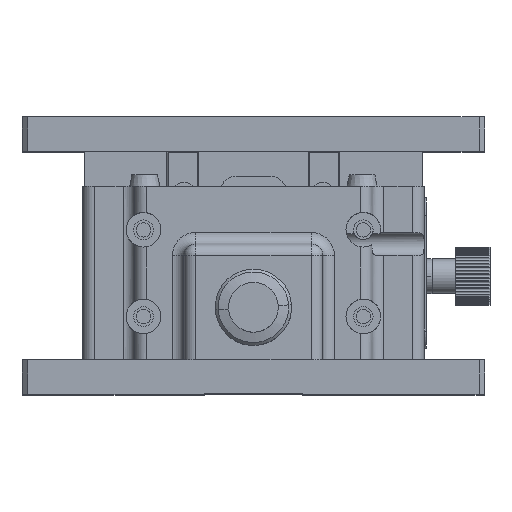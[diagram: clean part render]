
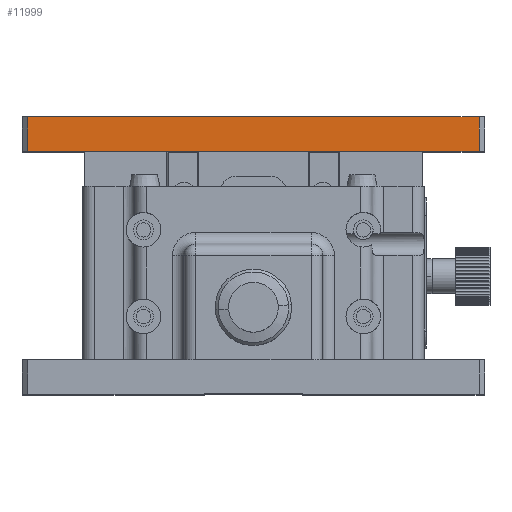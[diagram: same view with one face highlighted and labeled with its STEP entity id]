
A CAD part, top view. The second image highlights one B-rep face of the part: STEP entity #11999.
In plain terms, the highlighted planar face has unit normal (0, 0, 1).
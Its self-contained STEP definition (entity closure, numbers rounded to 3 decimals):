
#1009 = ORIENTED_EDGE ( 'NONE', *, *, #15925, .T. ) ;
#2530 = VERTEX_POINT ( 'NONE', #7080 ) ;
#3709 = CARTESIAN_POINT ( 'NONE',  ( -39., -3., 40. ) ) ;
#3855 = DIRECTION ( 'NONE',  ( 1., 0., 0. ) ) ;
#4626 = EDGE_CURVE ( 'NONE', #2530, #19923, #23789, .T. ) ;
#5015 = DIRECTION ( 'NONE',  ( 0., 0., -1. ) ) ;
#6577 = VERTEX_POINT ( 'NONE', #3709 ) ;
#7080 = CARTESIAN_POINT ( 'NONE',  ( -39., 3., 40. ) ) ;
#8352 = AXIS2_PLACEMENT_3D ( 'NONE', #18720, #5015, #25569 ) ;
#9295 = DIRECTION ( 'NONE',  ( 0., 1., 0. ) ) ;
#10593 = CARTESIAN_POINT ( 'NONE',  ( -40., 3., 40. ) ) ;
#11771 = PLANE ( 'NONE',  #8352 ) ;
#11999 = ADVANCED_FACE ( 'NONE', ( #15359 ), #11771, .F. ) ;
#12192 = CARTESIAN_POINT ( 'NONE',  ( -39., 3., 40. ) ) ;
#13092 = VECTOR ( 'NONE', #24944, 1000. ) ;
#13200 = VERTEX_POINT ( 'NONE', #24461 ) ;
#15359 = FACE_OUTER_BOUND ( 'NONE', #16813, .T. ) ;
#15925 = EDGE_CURVE ( 'NONE', #6577, #13200, #26443, .T. ) ;
#16336 = ORIENTED_EDGE ( 'NONE', *, *, #24948, .T. ) ;
#16355 = CARTESIAN_POINT ( 'NONE',  ( 39., 3., 40. ) ) ;
#16813 = EDGE_LOOP ( 'NONE', ( #1009, #18813, #18609, #16336 ) ) ;
#17490 = EDGE_CURVE ( 'NONE', #13200, #19923, #25813, .T. ) ;
#18335 = CARTESIAN_POINT ( 'NONE',  ( 39., 3., 40. ) ) ;
#18609 = ORIENTED_EDGE ( 'NONE', *, *, #4626, .F. ) ;
#18720 = CARTESIAN_POINT ( 'NONE',  ( -40., 3., 40. ) ) ;
#18813 = ORIENTED_EDGE ( 'NONE', *, *, #17490, .T. ) ;
#19923 = VERTEX_POINT ( 'NONE', #18335 ) ;
#21583 = LINE ( 'NONE', #12192, #13092 ) ;
#23267 = VECTOR ( 'NONE', #26783, 1000. ) ;
#23789 = LINE ( 'NONE', #10593, #25228 ) ;
#24461 = CARTESIAN_POINT ( 'NONE',  ( 39., -3., 40. ) ) ;
#24944 = DIRECTION ( 'NONE',  ( 0., -1., 0. ) ) ;
#24948 = EDGE_CURVE ( 'NONE', #2530, #6577, #21583, .T. ) ;
#25228 = VECTOR ( 'NONE', #3855, 1000. ) ;
#25569 = DIRECTION ( 'NONE',  ( -1., 0., 0. ) ) ;
#25813 = LINE ( 'NONE', #16355, #27923 ) ;
#26443 = LINE ( 'NONE', #28965, #23267 ) ;
#26783 = DIRECTION ( 'NONE',  ( 1., 0., 0. ) ) ;
#27923 = VECTOR ( 'NONE', #9295, 1000. ) ;
#28965 = CARTESIAN_POINT ( 'NONE',  ( -40., -3., 40. ) ) ;
